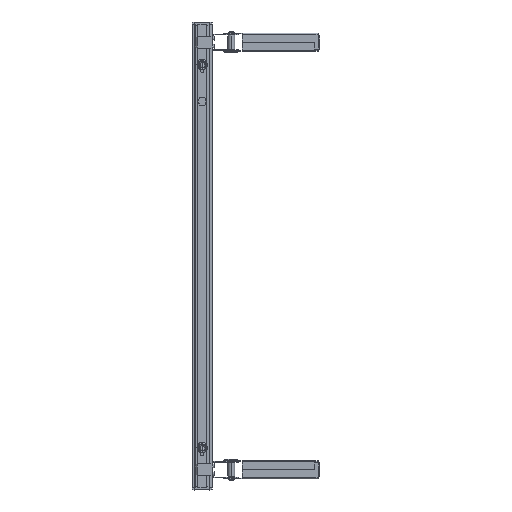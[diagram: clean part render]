
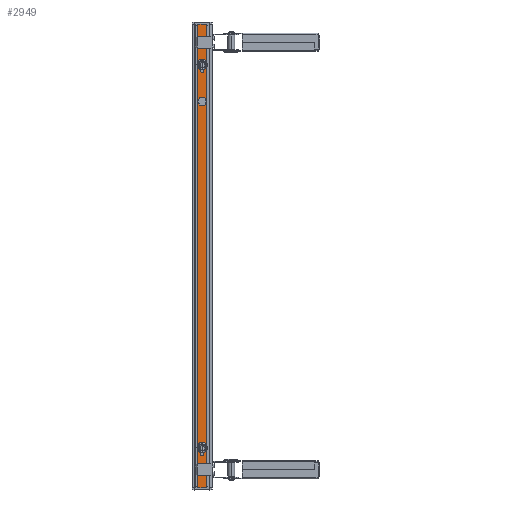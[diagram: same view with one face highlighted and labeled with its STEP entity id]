
A CAD part, top view. The second image highlights one B-rep face of the part: STEP entity #2949.
In plain terms, the highlighted planar face has unit normal (0, 0, 1).
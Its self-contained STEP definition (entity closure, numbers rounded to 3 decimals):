
#166=DIRECTION('',(-1.,0.,0.));
#167=VECTOR('',#166,18.);
#168=CARTESIAN_POINT('',(9.,-482.2,10.));
#169=LINE('',#168,#167);
#338=DIRECTION('',(1.,0.,0.));
#339=VECTOR('',#338,18.);
#340=CARTESIAN_POINT('',(-9.,482.2,10.));
#341=LINE('',#340,#339);
#650=DIRECTION('',(0.,-1.,0.));
#651=VECTOR('',#650,964.4);
#652=CARTESIAN_POINT('',(9.,482.2,10.));
#653=LINE('',#652,#651);
#658=CARTESIAN_POINT('',(0.,398.5,10.));
#659=DIRECTION('',(0.,0.,-1.));
#660=DIRECTION('',(-1.,0.,0.));
#661=AXIS2_PLACEMENT_3D('',#658,#659,#660);
#663=CARTESIAN_POINT('',(0.,398.5,10.));
#664=DIRECTION('',(0.,0.,-1.));
#665=DIRECTION('',(1.,0.,0.));
#666=AXIS2_PLACEMENT_3D('',#663,#664,#665);
#668=CARTESIAN_POINT('',(0.,-398.5,10.));
#669=DIRECTION('',(0.,0.,1.));
#670=DIRECTION('',(-1.,0.,0.));
#671=AXIS2_PLACEMENT_3D('',#668,#669,#670);
#673=CARTESIAN_POINT('',(0.,-398.5,10.));
#674=DIRECTION('',(0.,0.,1.));
#675=DIRECTION('',(1.,0.,0.));
#676=AXIS2_PLACEMENT_3D('',#673,#674,#675);
#678=CARTESIAN_POINT('',(0.,321.5,10.));
#679=DIRECTION('',(0.,0.,-1.));
#680=DIRECTION('',(-1.,0.,0.));
#681=AXIS2_PLACEMENT_3D('',#678,#679,#680);
#683=CARTESIAN_POINT('',(0.,321.5,10.));
#684=DIRECTION('',(0.,0.,-1.));
#685=DIRECTION('',(1.,0.,0.));
#686=AXIS2_PLACEMENT_3D('',#683,#684,#685);
#692=DIRECTION('',(0.,1.,0.));
#693=VECTOR('',#692,964.4);
#694=CARTESIAN_POINT('',(-9.,-482.2,10.));
#695=LINE('',#694,#693);
#1774=CARTESIAN_POINT('',(9.,-482.2,10.));
#1775=CARTESIAN_POINT('',(-9.,-482.2,10.));
#1776=VERTEX_POINT('',#1774);
#1777=VERTEX_POINT('',#1775);
#1809=CARTESIAN_POINT('',(-9.,482.2,10.));
#1811=VERTEX_POINT('',#1809);
#1818=CARTESIAN_POINT('',(9.,482.2,10.));
#1819=VERTEX_POINT('',#1818);
#2102=CARTESIAN_POINT('',(-6.,398.5,10.));
#2103=CARTESIAN_POINT('',(6.,398.5,10.));
#2104=VERTEX_POINT('',#2102);
#2105=VERTEX_POINT('',#2103);
#2111=CARTESIAN_POINT('',(-6.,-398.5,10.));
#2113=VERTEX_POINT('',#2111);
#2115=CARTESIAN_POINT('',(6.,-398.5,10.));
#2117=VERTEX_POINT('',#2115);
#2118=CARTESIAN_POINT('',(-5.,321.5,10.));
#2119=CARTESIAN_POINT('',(5.,321.5,10.));
#2120=VERTEX_POINT('',#2118);
#2121=VERTEX_POINT('',#2119);
#2919=CARTESIAN_POINT('',(-9.,-481.5,10.));
#2920=DIRECTION('',(0.,0.,1.));
#2921=DIRECTION('',(1.,0.,0.));
#2922=AXIS2_PLACEMENT_3D('',#2919,#2920,#2921);
#2923=PLANE('',#2922);
#2924=ORIENTED_EDGE('',*,*,#2557,.T.);
#2925=ORIENTED_EDGE('',*,*,#2912,.T.);
#2926=ORIENTED_EDGE('',*,*,#2429,.T.);
#2928=ORIENTED_EDGE('',*,*,#2927,.T.);
#2929=EDGE_LOOP('',(#2924,#2925,#2926,#2928));
#2930=FACE_OUTER_BOUND('',#2929,.F.);
#2932=ORIENTED_EDGE('',*,*,#2931,.F.);
#2934=ORIENTED_EDGE('',*,*,#2933,.F.);
#2935=EDGE_LOOP('',(#2932,#2934));
#2936=FACE_BOUND('',#2935,.F.);
#2938=ORIENTED_EDGE('',*,*,#2937,.T.);
#2940=ORIENTED_EDGE('',*,*,#2939,.T.);
#2941=EDGE_LOOP('',(#2938,#2940));
#2942=FACE_BOUND('',#2941,.F.);
#2944=ORIENTED_EDGE('',*,*,#2943,.F.);
#2946=ORIENTED_EDGE('',*,*,#2945,.F.);
#2947=EDGE_LOOP('',(#2944,#2946));
#2948=FACE_BOUND('',#2947,.F.);
#2949=ADVANCED_FACE('',(#2930,#2936,#2942,#2948),#2923,.T.);
#662=CIRCLE('',#661,6.);
#667=CIRCLE('',#666,6.);
#672=CIRCLE('',#671,6.);
#677=CIRCLE('',#676,6.);
#682=CIRCLE('',#681,5.);
#687=CIRCLE('',#686,5.);
#2429=EDGE_CURVE('',#1776,#1777,#169,.T.);
#2557=EDGE_CURVE('',#1811,#1819,#341,.T.);
#2912=EDGE_CURVE('',#1819,#1776,#653,.T.);
#2927=EDGE_CURVE('',#1777,#1811,#695,.T.);
#2931=EDGE_CURVE('',#2104,#2105,#662,.T.);
#2933=EDGE_CURVE('',#2105,#2104,#667,.T.);
#2937=EDGE_CURVE('',#2113,#2117,#672,.T.);
#2939=EDGE_CURVE('',#2117,#2113,#677,.T.);
#2943=EDGE_CURVE('',#2120,#2121,#682,.T.);
#2945=EDGE_CURVE('',#2121,#2120,#687,.T.);
